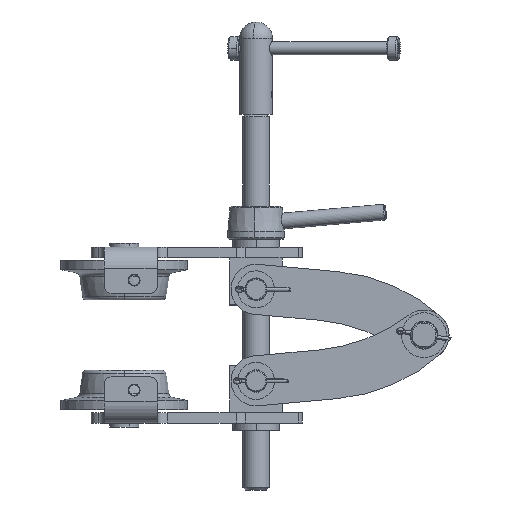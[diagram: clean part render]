
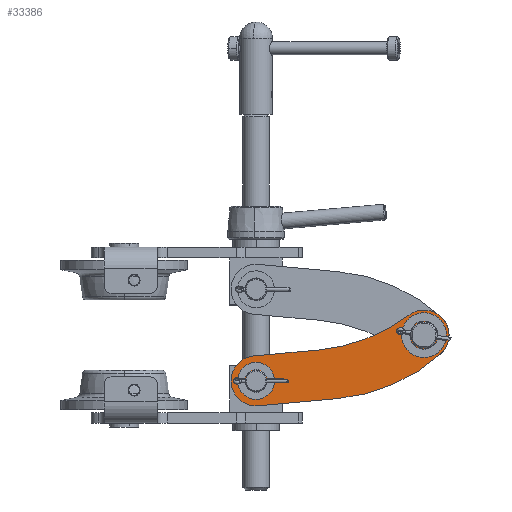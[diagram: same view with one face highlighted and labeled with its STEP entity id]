
A CAD part, left-side view. The second image highlights one B-rep face of the part: STEP entity #33386.
In plain terms, the highlighted planar face has unit normal (-1, 0, 0).
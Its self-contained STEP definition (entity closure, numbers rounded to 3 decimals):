
#526 = PLANE ( 'NONE',  #34723 ) ;
#662 = CARTESIAN_POINT ( 'NONE',  ( -30., -100.75, -42.942 ) ) ;
#761 = AXIS2_PLACEMENT_3D ( 'NONE', #24724, #8870, #30491 ) ;
#1135 = DIRECTION ( 'NONE',  ( 0., 0.091, 0.996 ) ) ;
#1317 = EDGE_CURVE ( 'NONE', #18065, #35450, #20516, .T. ) ;
#1406 = CARTESIAN_POINT ( 'NONE',  ( -30., -100., -34.726 ) ) ;
#3759 = DIRECTION ( 'NONE',  ( 0., 0.091, 0.996 ) ) ;
#5479 = DIRECTION ( 'NONE',  ( 0., 0.091, 0.996 ) ) ;
#6179 = DIRECTION ( 'NONE',  ( 0., 0.091, 0.996 ) ) ;
#6377 = CARTESIAN_POINT ( 'NONE',  ( -30., -134.83, 123.095 ) ) ;
#6817 = CARTESIAN_POINT ( 'NONE',  ( -30., -227.37, 0. ) ) ;
#6981 = CARTESIAN_POINT ( 'NONE',  ( -30., -98.272, -15.805 ) ) ;
#7059 = CIRCLE ( 'NONE', #28770, 19. ) ;
#7268 = CIRCLE ( 'NONE', #12480, 135. ) ;
#7275 = CARTESIAN_POINT ( 'NONE',  ( -30., -149.867, 86.31 ) ) ;
#8565 = FACE_OUTER_BOUND ( 'NONE', #31367, .T. ) ;
#8870 = DIRECTION ( 'NONE',  ( -1., 0., 0. ) ) ;
#9527 = ORIENTED_EDGE ( 'NONE', *, *, #37719, .T. ) ;
#9654 = DIRECTION ( 'NONE',  ( 0., -0.996, 0.091 ) ) ;
#9947 = EDGE_LOOP ( 'NONE', ( #23696, #25677 ) ) ;
#10137 = CARTESIAN_POINT ( 'NONE',  ( -30., -228.279, -9.959 ) ) ;
#10509 = ORIENTED_EDGE ( 'NONE', *, *, #15284, .T. ) ;
#11040 = VERTEX_POINT ( 'NONE', #662 ) ;
#11292 = CARTESIAN_POINT ( 'NONE',  ( -30., -100., -34.726 ) ) ;
#12480 = AXIS2_PLACEMENT_3D ( 'NONE', #7275, #32388, #30120 ) ;
#12498 = EDGE_CURVE ( 'NONE', #14677, #11040, #39073, .T. ) ;
#12724 = AXIS2_PLACEMENT_3D ( 'NONE', #11292, #29263, #20153 ) ;
#13513 = ORIENTED_EDGE ( 'NONE', *, *, #19447, .T. ) ;
#13651 = ORIENTED_EDGE ( 'NONE', *, *, #23024, .F. ) ;
#13683 = DIRECTION ( 'NONE',  ( 0., 0.091, 0.996 ) ) ;
#14677 = VERTEX_POINT ( 'NONE', #28443 ) ;
#15109 = CARTESIAN_POINT ( 'NONE',  ( -30., -100., -34.726 ) ) ;
#15284 = EDGE_CURVE ( 'NONE', #28826, #18065, #21811, .T. ) ;
#15586 = VERTEX_POINT ( 'NONE', #38514 ) ;
#15923 = EDGE_LOOP ( 'NONE', ( #13651, #34357 ) ) ;
#16704 = CARTESIAN_POINT ( 'NONE',  ( -30., -100., -34.726 ) ) ;
#16998 = CARTESIAN_POINT ( 'NONE',  ( -30., -98.272, -15.805 ) ) ;
#17831 = AXIS2_PLACEMENT_3D ( 'NONE', #25082, #31446, #37647 ) ;
#17892 = ORIENTED_EDGE ( 'NONE', *, *, #19165, .T. ) ;
#18065 = VERTEX_POINT ( 'NONE', #31713 ) ;
#18478 = CARTESIAN_POINT ( 'NONE',  ( -30., -215.953, 15.187 ) ) ;
#19165 = EDGE_CURVE ( 'NONE', #33443, #25201, #7268, .T. ) ;
#19323 = LINE ( 'NONE', #29029, #30390 ) ;
#19366 = DIRECTION ( 'NONE',  ( -1., 0., 0. ) ) ;
#19447 = EDGE_CURVE ( 'NONE', #25201, #28826, #24017, .T. ) ;
#19985 = CARTESIAN_POINT ( 'NONE',  ( -30., -162.144, -48.131 ) ) ;
#20153 = DIRECTION ( 'NONE',  ( 0., 0.091, 0.996 ) ) ;
#20516 = LINE ( 'NONE', #16998, #31111 ) ;
#21124 = DIRECTION ( 'NONE',  ( -1., 0., 0. ) ) ;
#21811 = CIRCLE ( 'NONE', #28420, 135. ) ;
#22649 = DIRECTION ( 'NONE',  ( 1., 0., 0. ) ) ;
#23024 = EDGE_CURVE ( 'NONE', #24787, #15586, #37542, .T. ) ;
#23696 = ORIENTED_EDGE ( 'NONE', *, *, #38897, .F. ) ;
#23703 = CARTESIAN_POINT ( 'NONE',  ( -30., -101.728, -53.648 ) ) ;
#24017 = CIRCLE ( 'NONE', #36476, 19. ) ;
#24142 = EDGE_CURVE ( 'NONE', #15586, #24787, #28409, .T. ) ;
#24724 = CARTESIAN_POINT ( 'NONE',  ( -30., -227.37, 0. ) ) ;
#24787 = VERTEX_POINT ( 'NONE', #10137 ) ;
#25082 = CARTESIAN_POINT ( 'NONE',  ( -30., -227.37, 0. ) ) ;
#25201 = VERTEX_POINT ( 'NONE', #29159 ) ;
#25677 = ORIENTED_EDGE ( 'NONE', *, *, #12498, .F. ) ;
#26544 = CIRCLE ( 'NONE', #38377, 8.25 ) ;
#28409 = CIRCLE ( 'NONE', #17831, 10. ) ;
#28420 = AXIS2_PLACEMENT_3D ( 'NONE', #6377, #22649, #6179 ) ;
#28443 = CARTESIAN_POINT ( 'NONE',  ( -30., -99.25, -26.511 ) ) ;
#28770 = AXIS2_PLACEMENT_3D ( 'NONE', #16704, #29335, #1135 ) ;
#28826 = VERTEX_POINT ( 'NONE', #18478 ) ;
#29029 = CARTESIAN_POINT ( 'NONE',  ( -30., -101.728, -53.648 ) ) ;
#29159 = CARTESIAN_POINT ( 'NONE',  ( -30., -240.064, -14.137 ) ) ;
#29263 = DIRECTION ( 'NONE',  ( -1., 0., 0. ) ) ;
#29335 = DIRECTION ( 'NONE',  ( -1., 0., 0. ) ) ;
#30120 = DIRECTION ( 'NONE',  ( 0., 0.091, 0.996 ) ) ;
#30390 = VECTOR ( 'NONE', #9654, 1000. ) ;
#30491 = DIRECTION ( 'NONE',  ( 0., 0.091, 0.996 ) ) ;
#31111 = VECTOR ( 'NONE', #33084, 1000. ) ;
#31367 = EDGE_LOOP ( 'NONE', ( #36850, #9527, #17892, #13513, #10509, #35404 ) ) ;
#31446 = DIRECTION ( 'NONE',  ( -1., 0., 0. ) ) ;
#31713 = CARTESIAN_POINT ( 'NONE',  ( -30., -147.106, -11.346 ) ) ;
#32233 = EDGE_CURVE ( 'NONE', #35450, #37487, #7059, .T. ) ;
#32388 = DIRECTION ( 'NONE',  ( -1., 0., 0. ) ) ;
#33084 = DIRECTION ( 'NONE',  ( 0., 0.996, -0.091 ) ) ;
#33276 = DIRECTION ( 'NONE',  ( -1., 0., 0. ) ) ;
#33386 = ADVANCED_FACE ( 'NONE', ( #36757, #8565, #37176 ), #526, .T. ) ;
#33443 = VERTEX_POINT ( 'NONE', #19985 ) ;
#34357 = ORIENTED_EDGE ( 'NONE', *, *, #24142, .F. ) ;
#34723 = AXIS2_PLACEMENT_3D ( 'NONE', #15109, #21124, #5479 ) ;
#35404 = ORIENTED_EDGE ( 'NONE', *, *, #1317, .T. ) ;
#35450 = VERTEX_POINT ( 'NONE', #6981 ) ;
#36476 = AXIS2_PLACEMENT_3D ( 'NONE', #6817, #19366, #3759 ) ;
#36757 = FACE_BOUND ( 'NONE', #9947, .T. ) ;
#36850 = ORIENTED_EDGE ( 'NONE', *, *, #32233, .T. ) ;
#37176 = FACE_BOUND ( 'NONE', #15923, .T. ) ;
#37487 = VERTEX_POINT ( 'NONE', #23703 ) ;
#37542 = CIRCLE ( 'NONE', #761, 10. ) ;
#37647 = DIRECTION ( 'NONE',  ( 0., 0.091, 0.996 ) ) ;
#37719 = EDGE_CURVE ( 'NONE', #37487, #33443, #19323, .T. ) ;
#38377 = AXIS2_PLACEMENT_3D ( 'NONE', #1406, #33276, #13683 ) ;
#38514 = CARTESIAN_POINT ( 'NONE',  ( -30., -226.46, 9.959 ) ) ;
#38897 = EDGE_CURVE ( 'NONE', #11040, #14677, #26544, .T. ) ;
#39073 = CIRCLE ( 'NONE', #12724, 8.25 ) ;
